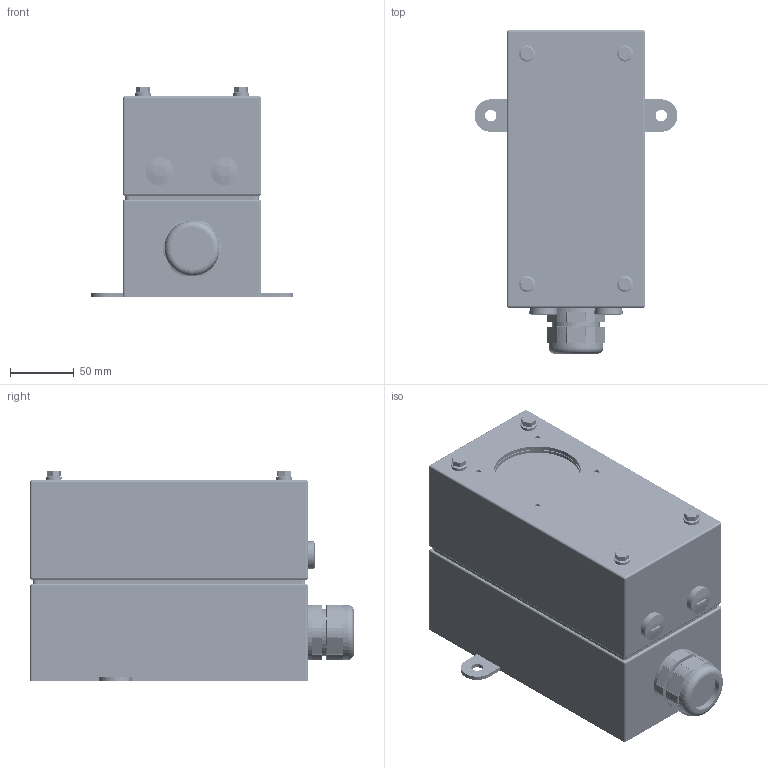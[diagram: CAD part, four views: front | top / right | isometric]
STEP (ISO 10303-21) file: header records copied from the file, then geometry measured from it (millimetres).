
FILE_DESCRIPTION (( 'STEP AP203' ), '1' );
FILE_NAME ('L7-EP.STEP', '2023-02-03T20:52:46', ( '' ), ( '' ), 'SwSTEP 2.0', 'SolidWorks 2021', '' );
FILE_SCHEMA (( 'CONFIG_CONTROL_DESIGN' ));
Length unit declared in the file: inch
Products named in the file (27): 201734; 200434; L7-EP; 400101; RSC62200; 201736; 800002_DEFAULT; PG11-N01; PG29-B01; SP-M6-1; PG29-N01; 200435; 93635A251_93635A251; 400200; 200309; 800008; PG11-S01; 94639A453_94639A453; 92125A128_92125A128; 201735; PG29-01-01-01-01_.060 GAP; PG29-I01; PG29-S01; 500100; 93625A200; PG11-I04; ZEBRA FS70-VS70
Assembly tree (54 placements, depth 3):
  L7-EP
    201734
      201735
      SP-M6-1  x4
      800008  x3
    200435
      200434
      800002_DEFAULT  x4
    201736
    200309
    400101
    400200
    500100
    PG11-N01  x2
    PG11-S01  x2
    PG11-I04  x2
    PG29-01-01-01-01_.060 GAP
      PG29-B01
      PG29-I01
      PG29-S01
      PG29-N01
    93625A200  x7
    RSC62200  x4
    93635A251_93635A251  x4
    94639A453_94639A453  x3
    92125A128_92125A128  x4
    ZEBRA FS70-VS70
Bounding box: 158.75 x 253.17 x 164.4 mm (x, y, z)
Volume: 983457.2 mm3; surface area: 496581.4 mm2
Topology: 68 solids, 87 shells, 5344 faces, 12918 edges, 7875 vertices
Faces by surface type: plane 1624, cylinder 1563, bspline 1195, cone 540, torus 355, sphere 67
Full cylindrical faces by diameter (mm): 3.4 x4, 4 x7, 4.2 x7, 4.928 x3, 5 x35, 5.334 x4, 5.556 x4, 5.8 x4, 6 x4, 7 x4, 7.493 x4, 8 x8, 8.75 x4, 9 x2, 9.525 x3, 12.192 x4, 12.7 x4, 13.185 x2, 17.272 x2, 18.64 x2, 18.796 x2, 19.05 x2, 21.844 x2, 21.996 x2, 28 x1, 31 x1, 31.5 x1, 32.5 x1, 35 x1, 37 x2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
Entity records: 271705 total; most frequent: CARTESIAN_POINT 173854, ORIENTED_EDGE 21786, DIRECTION 15518, EDGE_CURVE 10893, VERTEX_POINT 6656, AXIS2_PLACEMENT_3D 6011, EDGE_LOOP 4913, B_SPLINE_CURVE_WITH_KNOTS 4821
